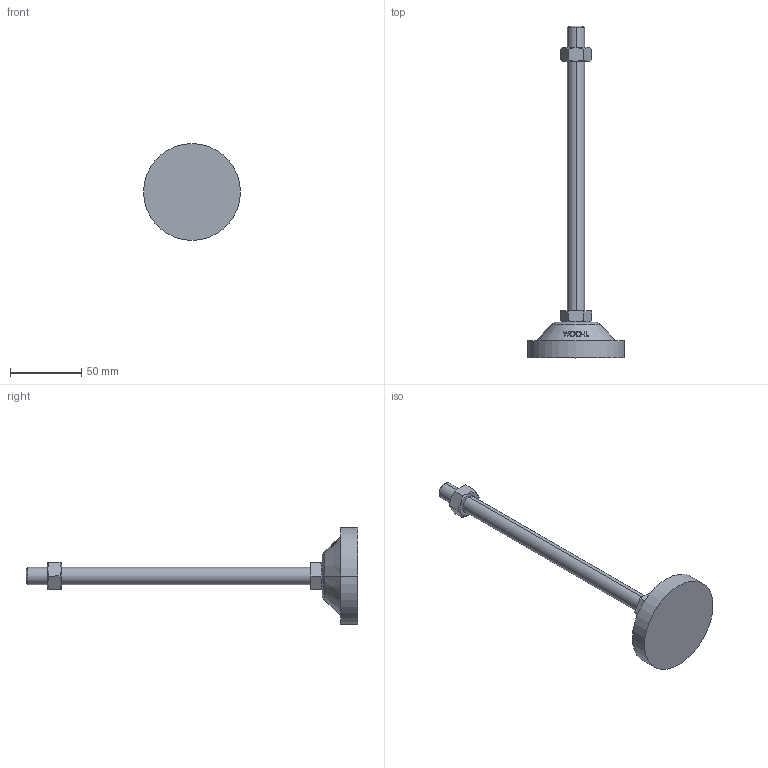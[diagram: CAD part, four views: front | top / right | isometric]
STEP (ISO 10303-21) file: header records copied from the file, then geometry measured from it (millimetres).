
FILE_DESCRIPTION (( 'STEP AP214' ), '1' );
FILE_NAME ('RL68-M12-200.step', '2021-01-06T08:17:03', ( '' ), ( '' ), 'SwSTEP 2.0', 'SolidWorks 2019', '' );
FILE_SCHEMA (( 'AUTOMOTIVE_DESIGN' ));
Length unit declared in the file: millimetre
Products named in the file (1): RL68-M12-200
Bounding box: 68 x 233 x 68 mm (x, y, z)
Volume: 90302.2 mm3; surface area: 20588.1 mm2
Topology: 3 solids, 3 shells, 93 faces, 217 edges, 140 vertices
Faces by surface type: plane 47, cone 22, bspline 16, cylinder 6, torus 2
Entity records: 4047 total; most frequent: CARTESIAN_POINT 2015, ORIENTED_EDGE 434, DIRECTION 349, EDGE_CURVE 217, VERTEX_POINT 140, AXIS2_PLACEMENT_3D 134, EDGE_LOOP 105, FACE_OUTER_BOUND 93
